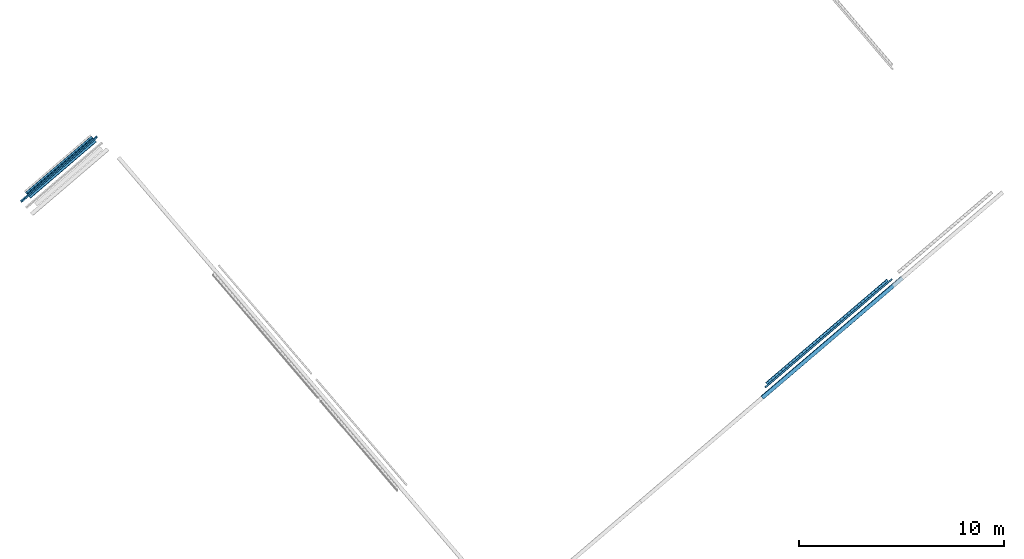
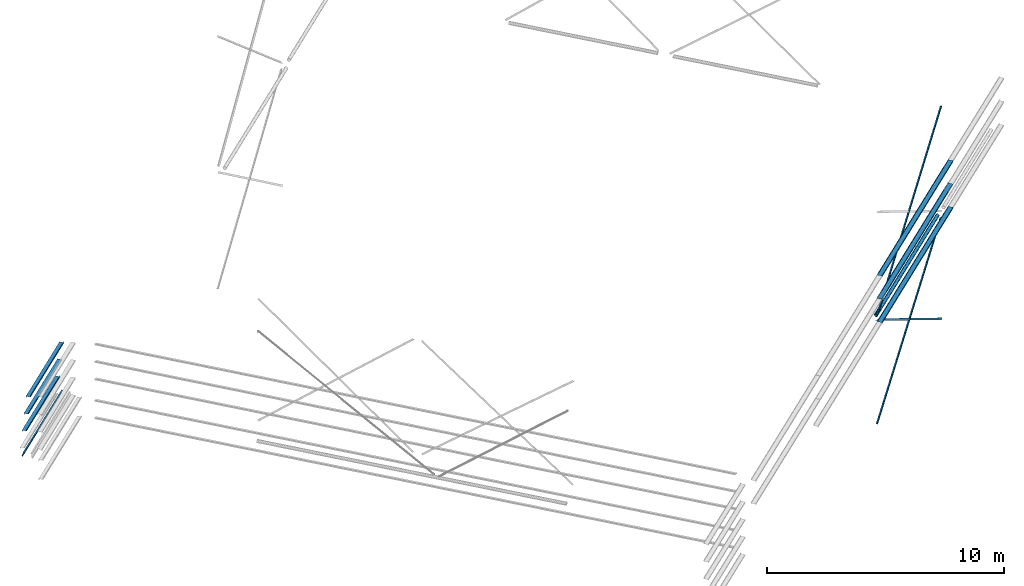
# One storey, part 4 of 6: 8 beams, 3 members.
"""IFC2X3 building model written with IfcOpenShell, lengths in millimetres."""

import ifcopenshell
import ifcopenshell.guid

model = None  # the IFC model being written
_history = None  # IfcOwnerHistory: only IFC2X3 demands one
_inside = {}  # id of a spatial element -> (the spatial element, [elements in it])
_under = {}  # id of a project, library or spatial element -> (it, [spatial elements below it])
_declared = {}  # id of a project -> (the project, [libraries it declares])
_typed = {}  # id of a type object -> (the type object, [elements of that type])
_made_of = {}  # id of a material, layer set ... -> (it, [elements and type objects made of it])


def new_model(schema):
    """Start an empty IFC model of exactly this schema.

    Asked for "IFC4X3", IfcOpenShell would pick the latest addendum, in which some entities
    have other attributes; the version numbers below select the first issue.
    IFC2X3 requires an IfcOwnerHistory on every rooted entity: one is made here for all.
    """
    global model, _history
    if schema == "IFC4X3":
        model = ifcopenshell.file(schema_version=(4, 3, 0, 0))
    else:
        model = ifcopenshell.file(schema=schema)
    _inside.clear()
    _under.clear()
    _declared.clear()
    _typed.clear()
    _made_of.clear()
    _history = None
    if model.schema == "IFC2X3":
        org = make("IfcOrganization", Name="unknown")
        user = make(
            "IfcPersonAndOrganization",
            ThePerson=make("IfcPerson", FamilyName="unknown"),
            TheOrganization=org,
        )
        app = make(
            "IfcApplication",
            ApplicationDeveloper=org,
            Version="unknown",
            ApplicationFullName="unknown",
            ApplicationIdentifier="unknown",
        )
        _history = make(
            "IfcOwnerHistory",
            OwningUser=user,
            OwningApplication=app,
            ChangeAction="ADDED",
            CreationDate=0,
        )
    return model


def make(cls, **values):
    """One entity of the class cls with the attributes given. An attribute that is None is left unset."""
    return model.create_entity(
        cls, **{name: value for name, value in values.items() if value is not None}
    )


def entity(cls, *values):
    """Any entity or typed value of the class cls, its attributes in the order of the schema. None: left unset."""
    e = model.create_entity(cls)
    for i, value in enumerate(values):
        if value is not None:
            e[i] = value
    return e


def rooted(cls, **values):
    """An entity with a GlobalId (a new one), such as an element, a storey or a relation."""
    return make(cls, GlobalId=ifcopenshell.guid.new(), OwnerHistory=_history, **values)


def si_unit(unit_type, name, prefix=None):
    """IfcSIUnit, for example si_unit("LENGTHUNIT", "METRE", prefix="MILLI")."""
    return make("IfcSIUnit", UnitType=unit_type, Prefix=prefix, Name=name)


def converted_unit(unit_type, name, factor, base, dimensions=None, offset=None):
    """IfcConversionBasedUnit, such as the inch: factor (a typed value) times the base unit."""
    return make(
        "IfcConversionBasedUnit"
        if offset is None
        else "IfcConversionBasedUnitWithOffset",
        ConversionOffset=offset,
        Dimensions=None
        if dimensions is None
        else entity("IfcDimensionalExponents", *dimensions),
        UnitType=unit_type,
        Name=name,
        ConversionFactor=make(
            "IfcMeasureWithUnit", ValueComponent=factor, UnitComponent=base
        ),
    )


def derived_unit(unit_type, elements):
    """IfcDerivedUnit: a product of units, each with its exponent."""
    return make(
        "IfcDerivedUnit",
        Elements=[
            make("IfcDerivedUnitElement", Unit=unit, Exponent=power)
            for unit, power in elements
        ],
        UnitType=unit_type,
    )


def assignment(units):
    """IfcUnitAssignment: the units of a project."""
    return None if units is None else make("IfcUnitAssignment", Units=units)


def point(xyz):
    """IfcCartesianPoint."""
    return None if xyz is None else make("IfcCartesianPoint", Coordinates=xyz)


def direction(xyz):
    """IfcDirection."""
    return None if xyz is None else make("IfcDirection", DirectionRatios=xyz)


def frame(location, z_axis=None, x_axis=None):
    """IfcAxis2Placement3D, a coordinate frame: its origin and axes. An axis left out is left unset."""
    return make(
        "IfcAxis2Placement3D",
        Location=point(location),
        Axis=direction(z_axis),
        RefDirection=direction(x_axis),
    )


def frame_2d(location, x_axis=None):
    """IfcAxis2Placement2D, a coordinate frame in the plane: its origin and x axis."""
    return make(
        "IfcAxis2Placement2D", Location=point(location), RefDirection=direction(x_axis)
    )


def origin():
    """The frame at (0, 0, 0) with its axes left unset."""
    return frame((0.0, 0.0, 0.0))


def origin_2d_with_axis():
    """The frame at (0, 0) in the plane with the x axis (1, 0) written out."""
    return frame_2d((0.0, 0.0), x_axis=(1.0, 0.0))


def place(relative_to, where):
    """IfcLocalPlacement: puts the frame where relative to a parent placement (None: the world)."""
    return make(
        "IfcLocalPlacement", PlacementRelTo=relative_to, RelativePlacement=where
    )


def context(
    kind, dimensions, precision=None, world=None, true_north=None, identifier=None
):
    """IfcGeometricRepresentationContext, for example the 3D "Model" context."""
    return make(
        "IfcGeometricRepresentationContext",
        ContextIdentifier=identifier,
        ContextType=kind,
        CoordinateSpaceDimension=dimensions,
        Precision=precision,
        WorldCoordinateSystem=world,
        TrueNorth=true_north,
    )


def subcontext(parent, identifier, kind, view, scale=None):
    """IfcGeometricRepresentationSubContext, for example "Body" below "Model"."""
    return make(
        "IfcGeometricRepresentationSubContext",
        ContextIdentifier=identifier,
        ContextType=kind,
        ParentContext=parent,
        TargetScale=scale,
        TargetView=view,
    )


def project(units=None, contexts=None):
    """IfcProject with its units and contexts."""
    return rooted(
        "IfcProject",
        Name="project",
        RepresentationContexts=contexts,
        UnitsInContext=assignment(units),
    )


def spatial(cls, under=None, at=None, **own):
    """A site, building, storey or space (cls), placed at a placement, below another one or the project."""
    s = rooted(cls, ObjectPlacement=at, **own)
    if under is not None:
        _under.setdefault(under.id(), (under, []))[1].append(s)
    return s


def polyline(points):
    """IfcPolyline through the points."""
    return make("IfcPolyline", Points=[point(p) for p in points])


def circle_curve(where, radius):
    """IfcCircle in the frame where."""
    return make("IfcCircle", Position=where, Radius=radius)


def parameter(value):
    """IfcParameterValue: where a trimmed curve begins or ends, as a parameter of its basis curve."""
    return model.create_entity("IfcParameterValue", value)


def trimmed(basis, trim1, trim2, sense, master):
    """IfcTrimmedCurve: the piece of a basis curve between two trims."""
    return make(
        "IfcTrimmedCurve",
        BasisCurve=basis,
        Trim1=trim1,
        Trim2=trim2,
        SenseAgreement=sense,
        MasterRepresentation=master,
    )


def segment(curve, same_sense, transition):
    """IfcCompositeCurveSegment."""
    return make(
        "IfcCompositeCurveSegment",
        Transition=transition,
        SameSense=same_sense,
        ParentCurve=curve,
    )


def composite_curve(segments, self_intersect=None):
    """IfcCompositeCurve: segments joined end to end."""
    return make("IfcCompositeCurve", Segments=segments, SelfIntersect=self_intersect)


def profile(cls, at=None, kind="AREA", **sizes):
    """A parametric profile (cls). Its sizes go by their IFC names, for example OverallWidth=200.0."""
    return make(cls, ProfileType=kind, Position=at, **sizes)


def hollow_circle(**sizes):
    """IfcCircleHollowProfileDef."""
    return profile("IfcCircleHollowProfileDef", **sizes)


def outline(outer, holes=None, kind="AREA"):
    """IfcArbitraryClosedProfileDef: a profile drawn as a closed curve; with holes, ...WithVoids."""
    if holes is None:
        return make("IfcArbitraryClosedProfileDef", ProfileType=kind, OuterCurve=outer)
    return make(
        "IfcArbitraryProfileDefWithVoids",
        ProfileType=kind,
        OuterCurve=outer,
        InnerCurves=holes,
    )


def extrude(swept, where, along, depth):
    """IfcExtrudedAreaSolid: the profile swept, set in the frame where, extruded along a direction by depth."""
    return make(
        "IfcExtrudedAreaSolid",
        SweptArea=swept,
        Position=where,
        ExtrudedDirection=direction(along),
        Depth=depth,
    )


def shape(context_of_items, identifier, shape_type, items):
    """IfcShapeRepresentation: the items that make up one representation, for example the "Body"."""
    return make(
        "IfcShapeRepresentation",
        ContextOfItems=context_of_items,
        RepresentationIdentifier=identifier,
        RepresentationType=shape_type,
        Items=items,
    )


def source(mapping_origin, context_of_items, identifier, shape_type, items):
    """IfcRepresentationMap: a shape defined once, which mapped items show again and again."""
    return make(
        "IfcRepresentationMap",
        MappingOrigin=mapping_origin,
        MappedRepresentation=shape(context_of_items, identifier, shape_type, items),
    )


def transform(
    local_origin,
    x_axis=None,
    y_axis=None,
    z_axis=None,
    scale=None,
    scale2=None,
    scale3=None,
    uniform=True,
):
    """IfcCartesianTransformationOperator3D, or its non-uniform kind. x_axis, y_axis, z_axis: its Axis1, 2, 3."""
    if uniform:
        return make(
            "IfcCartesianTransformationOperator3D",
            Axis1=direction(x_axis),
            Axis2=direction(y_axis),
            LocalOrigin=point(local_origin),
            Scale=scale,
            Axis3=direction(z_axis),
        )
    return make(
        "IfcCartesianTransformationOperator3DnonUniform",
        Axis1=direction(x_axis),
        Axis2=direction(y_axis),
        LocalOrigin=point(local_origin),
        Scale=scale,
        Axis3=direction(z_axis),
        Scale2=scale2,
        Scale3=scale3,
    )


def mapped(mapping_source, mapping_target):
    """IfcMappedItem: shows the shape of a source again, moved by a transform."""
    return make(
        "IfcMappedItem", MappingSource=mapping_source, MappingTarget=mapping_target
    )


def material(Name=None, Category=None):
    """IfcMaterial."""
    return make("IfcMaterial", Name=Name, Category=Category)


def made_of(thing, what):
    """Note that an element or type object is made of a material, layer set ...; save() writes the relation."""
    if what is not None:
        _made_of.setdefault(what.id(), (what, []))[1].append(thing)
    return thing


def type_object(cls, material=None, **own):
    """A type object (cls), such as IfcWallType, which elements share."""
    return made_of(rooted(cls, **own), material)


def type_shapes(of_type, sources):
    """Give a type object the sources (RepresentationMaps) that its elements show as mapped items."""
    of_type.RepresentationMaps = sources


def element(
    cls,
    number,
    at=None,
    inside=None,
    cuts=None,
    type_object=None,
    material=None,
    context=None,
    identifier="Body",
    shape_type=None,
    held_by="IfcProductDefinitionShape",
    body=None,
    shapes=None,
    **own,
):
    """One element of the class cls, such as IfcWall. Its Tag is "e" and its number.

    at: its placement. inside: the storey or other place that contains it. cuts: it is an
    opening in that element (IfcRelVoidsElement). A single representation is given by context,
    identifier, shape_type and body (its items); several are given by shapes. held_by: the class
    of the entity that holds the representations. save() writes the other relations.
    """
    e = rooted(cls, Tag="e%d" % number, ObjectPlacement=at, **own)
    if body is not None:
        shapes = [shape(context, identifier, shape_type, body)]
    if shapes is not None:
        e.Representation = make(held_by, Representations=shapes)
    if inside is not None:
        _inside.setdefault(inside.id(), (inside, []))[1].append(e)
    if cuts is not None:
        rooted(
            "IfcRelVoidsElement", RelatingBuildingElement=cuts, RelatedOpeningElement=e
        )
    if type_object is not None:
        _typed.setdefault(type_object.id(), (type_object, []))[1].append(e)
    return made_of(e, material)


def aggregate(whole, parts):
    """IfcRelAggregates: a whole, such as a stair, and the parts it consists of."""
    return rooted("IfcRelAggregates", RelatingObject=whole, RelatedObjects=parts)


def save(model, path):
    """Write the relations noted so far, then the file.

    IfcRelAggregates (storeys below a building ...), IfcRelContainedInSpatialStructure (elements
    in a storey), IfcRelDefinesByType, IfcRelAssociatesMaterial and IfcRelDeclares: one each for
    every whole, place, type object, material and project.
    """
    for whole, parts in _under.values():
        aggregate(whole, parts)
    for where, things in _inside.values():
        rooted(
            "IfcRelContainedInSpatialStructure",
            RelatedElements=things,
            RelatingStructure=where,
        )
    for kind, things in _typed.values():
        rooted("IfcRelDefinesByType", RelatedObjects=things, RelatingType=kind)
    for what, things in _made_of.values():
        rooted("IfcRelAssociatesMaterial", RelatedObjects=things, RelatingMaterial=what)
    for by, libraries in _declared.values():
        rooted("IfcRelDeclares", RelatingContext=by, RelatedDefinitions=libraries)
    model.write(path)


model = new_model("IFC2X3")

# Units and contexts
model_context = context("Model", 3, precision=0.01, world=origin(), true_north=direction((6.123031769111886e-17, 1.0)))
body_context = subcontext(model_context, "Body", "Model", "MODEL_VIEW")
ifc_project = project(units=[si_unit("LENGTHUNIT", "METRE", prefix="MILLI"), si_unit("AREAUNIT", "SQUARE_METRE"), si_unit("VOLUMEUNIT", "CUBIC_METRE"), converted_unit("PLANEANGLEUNIT", "DEGREE", entity("IfcRatioMeasure", 0.017453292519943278), si_unit("PLANEANGLEUNIT", "RADIAN"), dimensions=[0, 0, 0, 0, 0, 0, 0]), si_unit("MASSUNIT", "GRAM", prefix="KILO"), derived_unit("MASSDENSITYUNIT", [(si_unit("MASSUNIT", "GRAM", prefix="KILO"), 1), (si_unit("LENGTHUNIT", "METRE"), -3)]), derived_unit("MOMENTOFINERTIAUNIT", [(si_unit("LENGTHUNIT", "METRE"), 4)]), si_unit("TIMEUNIT", "SECOND"), si_unit("FREQUENCYUNIT", "HERTZ"), si_unit("THERMODYNAMICTEMPERATUREUNIT", "DEGREE_CELSIUS"), derived_unit("THERMALTRANSMITTANCEUNIT", [(si_unit("MASSUNIT", "GRAM", prefix="KILO"), 1), (si_unit("THERMODYNAMICTEMPERATUREUNIT", "KELVIN"), -1), (si_unit("TIMEUNIT", "SECOND"), -3)]), derived_unit("VOLUMETRICFLOWRATEUNIT", [(si_unit("LENGTHUNIT", "METRE"), 3), (si_unit("TIMEUNIT", "SECOND"), -1)]), derived_unit("MASSFLOWRATEUNIT", [(si_unit("MASSUNIT", "GRAM", prefix="KILO"), 1), (si_unit("TIMEUNIT", "SECOND"), -1)]), derived_unit("ROTATIONALFREQUENCYUNIT", [(si_unit("TIMEUNIT", "SECOND"), -1)]), si_unit("ELECTRICCURRENTUNIT", "AMPERE"), si_unit("ELECTRICVOLTAGEUNIT", "VOLT"), si_unit("POWERUNIT", "WATT"), si_unit("FORCEUNIT", "NEWTON", prefix="KILO"), si_unit("ILLUMINANCEUNIT", "LUX"), si_unit("LUMINOUSFLUXUNIT", "LUMEN"), si_unit("LUMINOUSINTENSITYUNIT", "CANDELA"), derived_unit("USERDEFINED", [(si_unit("MASSUNIT", "GRAM", prefix="KILO"), -1), (si_unit("LENGTHUNIT", "METRE"), -2), (si_unit("TIMEUNIT", "SECOND"), 3), (si_unit("LUMINOUSFLUXUNIT", "LUMEN"), 1)]), derived_unit("SOUNDPOWERUNIT", [(si_unit("MASSUNIT", "GRAM", prefix="KILO"), 1), (si_unit("LENGTHUNIT", "METRE"), 2), (si_unit("TIMEUNIT", "SECOND"), -3)]), derived_unit("LINEARVELOCITYUNIT", [(si_unit("LENGTHUNIT", "METRE"), 1), (si_unit("TIMEUNIT", "SECOND"), -1)]), si_unit("PRESSUREUNIT", "PASCAL"), derived_unit("USERDEFINED", [(si_unit("LENGTHUNIT", "METRE"), -2), (si_unit("MASSUNIT", "GRAM", prefix="KILO"), 1), (si_unit("TIMEUNIT", "SECOND"), -2)]), derived_unit("LINEARFORCEUNIT", [(si_unit("MASSUNIT", "GRAM", prefix="KILO"), 1), (si_unit("LENGTHUNIT", "METRE"), 1), (si_unit("TIMEUNIT", "SECOND"), -2), (si_unit("LENGTHUNIT", "METRE"), -1)]), derived_unit("PLANARFORCEUNIT", [(si_unit("MASSUNIT", "GRAM", prefix="KILO"), 1), (si_unit("LENGTHUNIT", "METRE"), 1), (si_unit("TIMEUNIT", "SECOND"), -2), (si_unit("LENGTHUNIT", "METRE"), -2)])], contexts=[model_context])

# Site, building, storey
site_placement = place(None, frame((962.4174930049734, -6014.433753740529, 0.0), z_axis=(0.0, 0.0, 1.0), x_axis=(0.7601792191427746, 0.649713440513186, 0.0)))
site = spatial("IfcSite", under=ifc_project, at=site_placement, Name="Default", CompositionType="ELEMENT")
building_placement = place(site_placement, origin())
building = spatial("IfcBuilding", under=site, at=building_placement, CompositionType="ELEMENT")
storey_placement = place(building_placement, frame((0.0, 0.0, 8925.0)))
storey = spatial("IfcBuildingStorey", under=building, at=storey_placement, Name="TOP OF PLANT ROOM", CompositionType="ELEMENT", Elevation=8925.000000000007)

# Beams
ifc_material_1 = material(Name="Metal - Steel - 300 MPa")
beam_type_1 = type_object("IfcBeamType", Name="ADSK_AU_CHS-Circular Hollow Sections (AS 1163_C350):168.3x6.4CHS", PredefinedType="NOTDEFINED")
beam_1_placement = place(storey_placement, frame((170738.96020470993, -25846.928082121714, -3340.850000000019)))
element("IfcBeam", 1, at=beam_1_placement, inside=storey, type_object=beam_type_1, material=ifc_material_1, Name="ADSK_AU_CHS-Circular Hollow Sections (AS 1163_C350):168.3x6.4CHS", ObjectType="ADSK_AU_CHS-Circular Hollow Sections (AS 1163_C350):168.3x6.4CHS", context=body_context, shape_type="SweptSolid", body=[
    extrude(hollow_circle(Radius=84.15000000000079, WallThickness=6.4000000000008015, at=origin_2d_with_axis()), frame((299.49999999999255, 0.0, -84.15000000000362), z_axis=(1.0, 0.0, 0.0), x_axis=(0.0, 1.0, 0.0)), (0.0, 0.0, 1.0), 7786.299999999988),
])
beam_type_2 = type_object("IfcBeamType", Name="ADSK_AU_EA-Equal Angles (AS 3679_1):90x90x10EA", PredefinedType="NOTDEFINED")
beam_2_placement = place(storey_placement, frame((179138.96020470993, -25957.928082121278, -3425.0), z_axis=(-0.5477859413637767, 0.0, 0.8366185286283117), x_axis=(-0.8366185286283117, 0.0, -0.5477859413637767)))
element("IfcBeam", 2, at=beam_2_placement, inside=storey, type_object=beam_type_2, material=ifc_material_1, Name="ADSK_AU_EA-Equal Angles (AS 3679_1):90x90x10EA", ObjectType="ADSK_AU_EA-Equal Angles (AS 3679_1):90x90x10EA", context=body_context, shape_type="SweptSolid", body=[
    extrude(outline(composite_curve([segment(polyline([(29.22222222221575, -55.777777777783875), (34.222222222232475, -55.777777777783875)]), True, "CONTINUOUS"), segment(polyline([(34.222222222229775, -55.77777777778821), (34.222222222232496, 34.222222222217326)]), True, "CONTINUOUS"), segment(polyline([(34.22222222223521, 34.222222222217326), (-55.77777777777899, 34.22222222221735)]), True, "CONTINUOUS"), segment(polyline([(-55.777777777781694, 34.22222222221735), (-55.77777777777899, 29.222222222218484)]), True, "CONTINUOUS"), segment(trimmed(circle_curve(frame_2d((-50.77777777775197, 29.22222222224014), x_axis=(-1.0, 0.0)), 5.000000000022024), [parameter(0.0)], [parameter(89.99999999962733)], True, "PARAMETER"), True, "CONTINUOUS"), segment(polyline([(-50.77777777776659, 24.22222222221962), (16.22222222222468, 24.222222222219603)]), True, "CONTINUOUS"), segment(trimmed(circle_curve(frame_2d((16.22222222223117, 16.222222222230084), x_axis=(0.0, 1.0)), 7.99999999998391), [parameter(269.9999999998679)], [parameter(0.0)], True, "PARAMETER"), False, "CONTINUOUS"), segment(polyline([(24.22222222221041, 16.222222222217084), (24.22222222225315, -50.77777777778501)]), True, "CONTINUOUS"), segment(trimmed(circle_curve(frame_2d((29.222222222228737, -50.777777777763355), x_axis=(-1.0, 0.0)), 5.000000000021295), [parameter(0.0)], [parameter(89.99999999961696)], True, "PARAMETER"), True, "CONTINUOUS")], self_intersect=False)), frame((229.30915898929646, -8.522222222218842, -55.77777777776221), z_axis=(1.0, 0.0, 0.0), x_axis=(0.0, 0.0, -1.0)), (0.0, 0.0, 1.0), 9673.50000000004),
])
beam_3_placement = place(storey_placement, frame((170763.61057207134, -25957.928082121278, -3387.352166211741), z_axis=(0.547785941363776, 0.0, 0.8366185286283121), x_axis=(0.8366185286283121, 0.0, -0.547785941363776)))
element("IfcBeam", 3, at=beam_3_placement, inside=storey, type_object=beam_type_2, material=ifc_material_1, Name="ADSK_AU_EA-Equal Angles (AS 3679_1):90x90x10EA", ObjectType="ADSK_AU_EA-Equal Angles (AS 3679_1):90x90x10EA", context=body_context, shape_type="SweptSolid", body=[
    extrude(outline(composite_curve([segment(polyline([(-55.77777777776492, -34.222222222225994), (34.2222222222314, -34.222222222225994)]), True, "CONTINUOUS"), segment(polyline([(34.22222222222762, -34.222222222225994), (34.22222222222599, 55.77777777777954)]), True, "CONTINUOUS"), segment(polyline([(34.22222222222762, 55.777777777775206), (29.222222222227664, 55.777777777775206)]), True, "CONTINUOUS"), segment(trimmed(circle_curve(frame_2d((29.222222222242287, 50.777777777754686), x_axis=(0.0, 1.0)), 5.000000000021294), [parameter(0.0)], [parameter(89.99999999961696)], True, "PARAMETER"), True, "CONTINUOUS"), segment(polyline([(24.22222222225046, 50.77777777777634), (24.222222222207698, -16.222222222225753)]), True, "CONTINUOUS"), segment(trimmed(circle_curve(frame_2d((16.2222222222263, -16.22222222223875), x_axis=(1.0, 0.0)), 7.999999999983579), [parameter(269.9999999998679)], [parameter(0.0)], True, "PARAMETER"), False, "CONTINUOUS"), segment(polyline([(16.222222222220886, -24.222222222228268), (-50.77777777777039, -24.222222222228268)]), True, "CONTINUOUS"), segment(trimmed(circle_curve(frame_2d((-50.77777777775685, -29.22222222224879), x_axis=(0.0, 1.0)), 5.000000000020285), [parameter(0.0)], [parameter(89.99999999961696)], True, "PARAMETER"), True, "CONTINUOUS"), segment(polyline([(-55.77777777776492, -29.22222222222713), (-55.777777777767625, -34.222222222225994)]), True, "CONTINUOUS")], self_intersect=False)), frame((198.70915898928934, 8.522222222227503, -55.777777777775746), z_axis=(1.0, 0.0, 0.0), x_axis=(0.0, 0.0, -1.0)), (0.0, 0.0, 1.0), 9676.100000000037),
])
beam_4_placement = place(storey_placement, frame((179089.73643714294, -25957.928082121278, 2247.919352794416), z_axis=(-0.5582373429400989, 0.0, 0.8296813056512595), x_axis=(-0.8296813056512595, 0.0, -0.5582373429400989)))
element("IfcBeam", 4, at=beam_4_placement, inside=storey, type_object=beam_type_2, material=ifc_material_1, Name="ADSK_AU_EA-Equal Angles (AS 3679_1):90x90x10EA", ObjectType="ADSK_AU_EA-Equal Angles (AS 3679_1):90x90x10EA", context=body_context, shape_type="SweptSolid", body=[
    extrude(outline(composite_curve([segment(polyline([(29.22222222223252, -55.77777777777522), (34.222222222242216, -55.77777777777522)]), True, "CONTINUOUS"), segment(polyline([(34.222222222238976, -55.77777777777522), (34.22222222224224, 34.22222222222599)]), True, "CONTINUOUS"), segment(polyline([(34.222222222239, 34.22222222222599), (-55.777777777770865, 34.22222222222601)]), True, "CONTINUOUS"), segment(polyline([(-55.7777777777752, 34.22222222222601), (-55.777777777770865, 29.22222222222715)]), True, "CONTINUOUS"), segment(trimmed(circle_curve(frame_2d((-50.77777777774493, 29.222222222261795), x_axis=(-1.0, 0.0)), 5.000000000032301), [parameter(0.0)], [parameter(89.99999999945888)], True, "PARAMETER"), True, "CONTINUOUS"), segment(polyline([(-50.77777777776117, 24.222222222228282), (16.222222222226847, 24.222222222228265)]), True, "CONTINUOUS"), segment(trimmed(circle_curve(frame_2d((16.222222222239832, 16.22222222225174), x_axis=(0.0, 1.0)), 7.999999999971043), [parameter(269.9999999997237)], [parameter(0.0)], True, "PARAMETER"), False, "CONTINUOUS"), segment(polyline([(24.222222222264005, 16.222222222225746), (24.222222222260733, -50.77777777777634)]), True, "CONTINUOUS"), segment(trimmed(circle_curve(frame_2d((29.222222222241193, -50.7777777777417), x_axis=(-1.0, 0.0)), 5.000000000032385), [parameter(0.0)], [parameter(89.99999999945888)], True, "PARAMETER"), True, "CONTINUOUS")], self_intersect=False)), frame((139.90915898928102, -8.522222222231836, -55.777777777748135), z_axis=(1.0, 0.0, 0.0), x_axis=(0.0, 0.0, -1.0)), (0.0, 0.0, 1.0), 9786.400000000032),
])
beam_type_3 = type_object("IfcBeamType", Name="ADSK_UK_Light Gauge-Zeds-Purlin:Metsec-202Z14", PredefinedType="NOTDEFINED")
beam_5_placement = place(storey_placement, frame((153845.96020471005, 4757.234486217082, -2333.308750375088), z_axis=(0.0, 0.0, 1.0), x_axis=(-1.0, 0.0, 0.0)))
element("IfcBeam", 5, at=beam_5_placement, inside=storey, type_object=beam_type_3, material=ifc_material_1, Name="ADSK_UK_Light Gauge-Zeds-Purlin:Metsec-202Z14", ObjectType="ADSK_UK_Light Gauge-Zeds-Purlin:Metsec-202Z14", context=body_context, shape_type="SweptSolid", body=[
    extrude(outline(composite_curve([segment(trimmed(circle_curve(frame_2d((98.400000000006, 58.0), x_axis=(1.0, 0.0)), 2.7999999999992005), [parameter(0.0)], [parameter(90.00000000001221)], True, "PARAMETER"), True, "CONTINUOUS"), segment(polyline([(98.39999999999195, 60.80000000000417), (80.20000000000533, 60.80000000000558)]), True, "CONTINUOUS"), segment(polyline([(80.19999999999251, 60.80000000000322), (80.20000000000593, 59.40000000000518)]), True, "CONTINUOUS"), segment(polyline([(80.19999999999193, 59.4000000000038), (98.40000000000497, 59.40000000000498)]), True, "CONTINUOUS"), segment(trimmed(circle_curve(frame_2d((98.40000000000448, 58.0), x_axis=(0.0, 1.0)), 1.4000000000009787), [parameter(270.000000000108)], [parameter(0.0)], True, "PARAMETER"), False, "CONTINUOUS"), segment(polyline([(99.79999999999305, 58.0), (99.80000000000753, 3.6000000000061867)]), True, "CONTINUOUS"), segment(trimmed(circle_curve(frame_2d((98.40000000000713, 3.6000000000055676), x_axis=(1.0, 0.0)), 1.4000000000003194), [parameter(269.9999999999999)], [parameter(0.0)], True, "PARAMETER"), False, "CONTINUOUS"), segment(polyline([(98.39999999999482, 2.2000000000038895), (-98.0, 2.199999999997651)]), True, "CONTINUOUS"), segment(trimmed(circle_curve(frame_2d((-98.0, -0.6000000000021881), x_axis=(0.0, 1.0)), 2.7999999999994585), [parameter(0.0)], [parameter(90.00000000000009)], True, "PARAMETER"), True, "CONTINUOUS"), segment(polyline([(-100.80000000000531, -0.6000000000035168), (-100.7999999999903, -60.0)]), True, "CONTINUOUS"), segment(trimmed(circle_curve(frame_2d((-98.0, -60.0), x_axis=(-1.0, 0.0)), 2.7999999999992), [parameter(0.0)], [parameter(90.00000000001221)], True, "PARAMETER"), True, "CONTINUOUS"), segment(polyline([(-98.0, -62.80000000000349), (-81.79999999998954, -62.80000000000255)]), True, "CONTINUOUS"), segment(polyline([(-81.80000000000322, -62.80000000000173), (-81.79999999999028, -61.40000000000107)]), True, "CONTINUOUS"), segment(polyline([(-81.80000000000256, -61.40000000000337), (-98.0, -61.40000000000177)]), True, "CONTINUOUS"), segment(trimmed(circle_curve(frame_2d((-98.0, -60.0), x_axis=(0.0, -1.0)), 1.4000000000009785), [parameter(270.000000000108)], [parameter(0.0)], True, "PARAMETER"), False, "CONTINUOUS"), segment(polyline([(-99.40000000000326, -60.0), (-99.39999999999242, -0.600000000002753)]), True, "CONTINUOUS"), segment(trimmed(circle_curve(frame_2d((-98.0, -0.6000000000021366), x_axis=(-1.0, 0.0)), 1.4000000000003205), [parameter(269.9999999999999)], [parameter(0.0)], True, "PARAMETER"), False, "CONTINUOUS"), segment(polyline([(-98.0, 0.7999999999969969), (98.40000000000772, 0.8000000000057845)]), True, "CONTINUOUS"), segment(trimmed(circle_curve(frame_2d((98.40000000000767, 3.600000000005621), x_axis=(0.0, -1.0)), 2.799999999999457), [parameter(0.0)], [parameter(90.00000000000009)], True, "PARAMETER"), True, "CONTINUOUS"), segment(polyline([(101.19999999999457, 3.6000000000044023), (101.20000000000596, 58.0)]), True, "CONTINUOUS")], self_intersect=False)), frame((0.0, 100.24508507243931, -10.585505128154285), z_axis=(1.0, 0.0, 0.0), x_axis=(0.0, 0.9951761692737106, -0.09810398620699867)), (0.0, 0.0, 1.0), 4240.000000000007),
])
beam_6_placement = place(storey_placement, frame((153845.96020471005, 4668.981135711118, -1437.646232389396), z_axis=(0.0, 0.0, 1.0), x_axis=(-1.0, 0.0, 0.0)))
element("IfcBeam", 6, at=beam_6_placement, inside=storey, type_object=beam_type_3, material=ifc_material_1, Name="ADSK_UK_Light Gauge-Zeds-Purlin:Metsec-202Z14", ObjectType="ADSK_UK_Light Gauge-Zeds-Purlin:Metsec-202Z14", context=body_context, shape_type="SweptSolid", body=[
    extrude(outline(composite_curve([segment(trimmed(circle_curve(frame_2d((98.40000000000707, 58.0), x_axis=(1.0, 0.0)), 2.7999999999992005), [parameter(0.0)], [parameter(90.00000000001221)], True, "PARAMETER"), True, "CONTINUOUS"), segment(polyline([(98.39999999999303, 60.800000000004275), (80.20000000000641, 60.80000000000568)]), True, "CONTINUOUS"), segment(polyline([(80.19999999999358, 60.80000000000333), (80.20000000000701, 59.400000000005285)]), True, "CONTINUOUS"), segment(polyline([(80.19999999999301, 59.40000000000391), (98.40000000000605, 59.400000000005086)]), True, "CONTINUOUS"), segment(trimmed(circle_curve(frame_2d((98.40000000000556, 58.0), x_axis=(0.0, 1.0)), 1.4000000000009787), [parameter(270.000000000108)], [parameter(0.0)], True, "PARAMETER"), False, "CONTINUOUS"), segment(polyline([(99.79999999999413, 58.0), (99.8000000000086, 3.6000000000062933)]), True, "CONTINUOUS"), segment(trimmed(circle_curve(frame_2d((98.4000000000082, 3.6000000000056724), x_axis=(1.0, 0.0)), 1.4000000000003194), [parameter(269.9999999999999)], [parameter(0.0)], True, "PARAMETER"), False, "CONTINUOUS"), segment(polyline([(98.3999999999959, 2.2000000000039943), (-98.0, 2.1999999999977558)]), True, "CONTINUOUS"), segment(trimmed(circle_curve(frame_2d((-98.0, -0.6000000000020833), x_axis=(0.0, 1.0)), 2.7999999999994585), [parameter(0.0)], [parameter(90.00000000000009)], True, "PARAMETER"), True, "CONTINUOUS"), segment(polyline([(-100.80000000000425, -0.600000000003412), (-100.79999999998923, -60.0)]), True, "CONTINUOUS"), segment(trimmed(circle_curve(frame_2d((-98.0, -60.0), x_axis=(-1.0, 0.0)), 2.7999999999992), [parameter(0.0)], [parameter(90.00000000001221)], True, "PARAMETER"), True, "CONTINUOUS"), segment(polyline([(-98.0, -62.800000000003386), (-81.79999999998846, -62.80000000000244)]), True, "CONTINUOUS"), segment(polyline([(-81.80000000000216, -62.800000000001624), (-81.7999999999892, -61.400000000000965)]), True, "CONTINUOUS"), segment(polyline([(-81.80000000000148, -61.40000000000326), (-98.0, -61.40000000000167)]), True, "CONTINUOUS"), segment(trimmed(circle_curve(frame_2d((-98.0, -60.0), x_axis=(0.0, -1.0)), 1.4000000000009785), [parameter(270.000000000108)], [parameter(0.0)], True, "PARAMETER"), False, "CONTINUOUS"), segment(polyline([(-99.4000000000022, -60.0), (-99.39999999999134, -0.6000000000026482)]), True, "CONTINUOUS"), segment(trimmed(circle_curve(frame_2d((-98.0, -0.60000000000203), x_axis=(-1.0, 0.0)), 1.4000000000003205), [parameter(269.9999999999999)], [parameter(0.0)], True, "PARAMETER"), False, "CONTINUOUS"), segment(polyline([(-98.0, 0.7999999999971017), (98.4000000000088, 0.8000000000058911)]), True, "CONTINUOUS"), segment(trimmed(circle_curve(frame_2d((98.40000000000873, 3.6000000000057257), x_axis=(0.0, -1.0)), 2.799999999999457), [parameter(0.0)], [parameter(90.00000000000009)], True, "PARAMETER"), True, "CONTINUOUS"), segment(polyline([(101.19999999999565, 3.600000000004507), (101.20000000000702, 58.0)]), True, "CONTINUOUS")], self_intersect=False)), frame((0.0, 100.24508507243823, -10.585505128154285), z_axis=(1.0, 0.0, 0.0), x_axis=(0.0, 0.9951761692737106, -0.09810398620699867)), (0.0, 0.0, 1.0), 4240.000000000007),
])
beam_7_placement = place(storey_placement, frame((153845.96020471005, 4580.727785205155, -541.9837144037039), z_axis=(0.0, 0.0, 1.0), x_axis=(-1.0, 0.0, 0.0)))
element("IfcBeam", 7, at=beam_7_placement, inside=storey, type_object=beam_type_3, material=ifc_material_1, Name="ADSK_UK_Light Gauge-Zeds-Purlin:Metsec-202Z14", ObjectType="ADSK_UK_Light Gauge-Zeds-Purlin:Metsec-202Z14", context=body_context, shape_type="SweptSolid", body=[
    extrude(outline(composite_curve([segment(trimmed(circle_curve(frame_2d((98.40000000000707, 58.0), x_axis=(1.0, 0.0)), 2.7999999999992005), [parameter(0.0)], [parameter(90.00000000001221)], True, "PARAMETER"), True, "CONTINUOUS"), segment(polyline([(98.39999999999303, 60.800000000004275), (80.20000000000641, 60.80000000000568)]), True, "CONTINUOUS"), segment(polyline([(80.19999999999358, 60.80000000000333), (80.20000000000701, 59.400000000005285)]), True, "CONTINUOUS"), segment(polyline([(80.19999999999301, 59.40000000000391), (98.40000000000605, 59.400000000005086)]), True, "CONTINUOUS"), segment(trimmed(circle_curve(frame_2d((98.40000000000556, 58.0), x_axis=(0.0, 1.0)), 1.4000000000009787), [parameter(270.000000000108)], [parameter(0.0)], True, "PARAMETER"), False, "CONTINUOUS"), segment(polyline([(99.79999999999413, 58.0), (99.8000000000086, 3.6000000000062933)]), True, "CONTINUOUS"), segment(trimmed(circle_curve(frame_2d((98.4000000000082, 3.6000000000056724), x_axis=(1.0, 0.0)), 1.4000000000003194), [parameter(269.9999999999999)], [parameter(0.0)], True, "PARAMETER"), False, "CONTINUOUS"), segment(polyline([(98.3999999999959, 2.2000000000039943), (-98.0, 2.1999999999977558)]), True, "CONTINUOUS"), segment(trimmed(circle_curve(frame_2d((-98.0, -0.6000000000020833), x_axis=(0.0, 1.0)), 2.7999999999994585), [parameter(0.0)], [parameter(90.00000000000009)], True, "PARAMETER"), True, "CONTINUOUS"), segment(polyline([(-100.80000000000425, -0.600000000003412), (-100.79999999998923, -60.0)]), True, "CONTINUOUS"), segment(trimmed(circle_curve(frame_2d((-98.0, -60.0), x_axis=(-1.0, 0.0)), 2.7999999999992), [parameter(0.0)], [parameter(90.00000000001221)], True, "PARAMETER"), True, "CONTINUOUS"), segment(polyline([(-98.0, -62.800000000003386), (-81.79999999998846, -62.80000000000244)]), True, "CONTINUOUS"), segment(polyline([(-81.80000000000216, -62.800000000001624), (-81.7999999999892, -61.400000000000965)]), True, "CONTINUOUS"), segment(polyline([(-81.80000000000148, -61.40000000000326), (-98.0, -61.40000000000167)]), True, "CONTINUOUS"), segment(trimmed(circle_curve(frame_2d((-98.0, -60.0), x_axis=(0.0, -1.0)), 1.4000000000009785), [parameter(270.000000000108)], [parameter(0.0)], True, "PARAMETER"), False, "CONTINUOUS"), segment(polyline([(-99.4000000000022, -60.0), (-99.39999999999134, -0.6000000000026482)]), True, "CONTINUOUS"), segment(trimmed(circle_curve(frame_2d((-98.0, -0.60000000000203), x_axis=(-1.0, 0.0)), 1.4000000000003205), [parameter(269.9999999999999)], [parameter(0.0)], True, "PARAMETER"), False, "CONTINUOUS"), segment(polyline([(-98.0, 0.7999999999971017), (98.4000000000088, 0.8000000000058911)]), True, "CONTINUOUS"), segment(trimmed(circle_curve(frame_2d((98.40000000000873, 3.6000000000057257), x_axis=(0.0, -1.0)), 2.799999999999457), [parameter(0.0)], [parameter(90.00000000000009)], True, "PARAMETER"), True, "CONTINUOUS"), segment(polyline([(101.19999999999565, 3.600000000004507), (101.20000000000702, 58.0)]), True, "CONTINUOUS")], self_intersect=False)), frame((0.0, 100.24508507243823, -10.585505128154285), z_axis=(1.0, 0.0, 0.0), x_axis=(0.0, 0.9951761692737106, -0.09810398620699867)), (0.0, 0.0, 1.0), 4240.000000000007),
])
beam_8_placement = place(storey_placement, frame((154043.43877903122, 4560.521917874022, -3139.0), z_axis=(0.0, 0.0, 1.0), x_axis=(-1.0, 0.0, 0.0)))
element("IfcBeam", 8, at=beam_8_placement, inside=storey, type_object=beam_type_3, material=ifc_material_1, Name="ADSK_UK_Light Gauge-Zeds-Purlin:Metsec-202Z14", ObjectType="ADSK_UK_Light Gauge-Zeds-Purlin:Metsec-202Z14", context=body_context, shape_type="SweptSolid", body=[
    extrude(outline(composite_curve([segment(polyline([(80.2000000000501, -60.799999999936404), (98.4000000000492, -60.799999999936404)]), True, "CONTINUOUS"), segment(trimmed(circle_curve(frame_2d((98.40000000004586, -58.0), x_axis=(0.0, -1.0)), 2.8000000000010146), [parameter(0.0)], [parameter(89.99999999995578)], True, "PARAMETER"), True, "CONTINUOUS"), segment(polyline([(101.20000000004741, -58.0), (101.20000000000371, -3.5999999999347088)]), True, "CONTINUOUS"), segment(trimmed(circle_curve(frame_2d((98.40000000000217, -3.59999999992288), x_axis=(1.0, 0.0)), 2.8000000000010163), [parameter(0.0)], [parameter(89.99999999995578)], True, "PARAMETER"), True, "CONTINUOUS"), segment(polyline([(98.400000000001, -0.7999999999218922), (-98.0, -0.8000000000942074)]), True, "CONTINUOUS"), segment(trimmed(circle_curve(frame_2d((-98.0, 0.5999999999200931), x_axis=(0.0, -1.0)), 1.4000000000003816), [parameter(270.0000000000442)], [parameter(0.0)], True, "PARAMETER"), False, "CONTINUOUS"), segment(polyline([(-99.39999999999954, 0.599999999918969), (-99.40000000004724, 60.0)]), True, "CONTINUOUS"), segment(trimmed(circle_curve(frame_2d((-98.0, 60.0), x_axis=(-1.0, 0.0)), 1.4000000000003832), [parameter(270.0000000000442)], [parameter(0.0)], True, "PARAMETER"), False, "CONTINUOUS"), segment(polyline([(-98.0, 61.39999999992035), (-81.80000000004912, 61.399999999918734)]), True, "CONTINUOUS"), segment(polyline([(-81.80000000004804, 61.39999999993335), (-81.80000000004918, 62.79999999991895)]), True, "CONTINUOUS"), segment(polyline([(-81.80000000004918, 62.799999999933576), (-98.0, 62.79999999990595)]), True, "CONTINUOUS"), segment(trimmed(circle_curve(frame_2d((-98.0, 60.0), x_axis=(0.0, 1.0)), 2.8000000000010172), [parameter(0.0)], [parameter(89.99999999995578)], True, "PARAMETER"), True, "CONTINUOUS"), segment(polyline([(-100.80000000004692, 60.0), (-100.79999999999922, 0.5999999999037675)]), True, "CONTINUOUS"), segment(trimmed(circle_curve(frame_2d((-98.0, 0.5999999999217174), x_axis=(-1.0, 0.0)), 2.800000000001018), [parameter(0.0)], [parameter(89.99999999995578)], True, "PARAMETER"), True, "CONTINUOUS"), segment(polyline([(-98.0, -2.200000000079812), (98.40000000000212, -2.199999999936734)]), True, "CONTINUOUS"), segment(trimmed(circle_curve(frame_2d((98.40000000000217, -3.5999999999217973), x_axis=(0.0, 1.0)), 1.400000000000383), [parameter(270.0000000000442)], [parameter(0.0)], True, "PARAMETER"), False, "CONTINUOUS"), segment(polyline([(99.80000000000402, -3.5999999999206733), (99.80000000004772, -58.0)]), True, "CONTINUOUS"), segment(trimmed(circle_curve(frame_2d((98.40000000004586, -58.0), x_axis=(1.0, 0.0)), 1.4000000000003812), [parameter(270.0000000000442)], [parameter(0.0)], True, "PARAMETER"), False, "CONTINUOUS"), segment(polyline([(98.40000000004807, -59.39999999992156), (80.20000000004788, -59.3999999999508)]), True, "CONTINUOUS"), segment(polyline([(80.20000000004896, -59.39999999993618), (80.2000000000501, -60.79999999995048)]), True, "CONTINUOUS")], self_intersect=False)), frame((0.0, 0.7000000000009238, -100.80000000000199), z_axis=(1.0, 0.0, 0.0), x_axis=(0.0, 0.0, -1.0)), (0.0, 0.0, 1.0), 4899.999999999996),
])

# Members
ifc_material_2 = material(Name="Metal - Steel - 345 MPa")
member_type = type_object("IfcMemberType", Name="ADSK_AU_Light Gauge-Zeds:Z20012", PredefinedType="BRACE", material=ifc_material_2)
shared_shape = source(origin(), body_context, "Body", "SweptSolid", [
    extrude(outline(composite_curve([segment(polyline([(-98.30000000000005, -66.44000000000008), (-82.0, -66.44000000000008)]), True, "CONTINUOUS"), segment(polyline([(-82.0, -66.44000000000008), (-82.0, -65.24000000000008)]), True, "CONTINUOUS"), segment(polyline([(-82.0, -65.24000000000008), (-98.29999999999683, -65.24000000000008)]), True, "CONTINUOUS"), segment(trimmed(circle_curve(frame_2d((-98.30000000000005, -63.24000000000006), x_axis=(0.0, -1.0)), 2.0000000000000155), [parameter(270.00000000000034)], [parameter(0.0)], True, "PARAMETER"), False, "CONTINUOUS"), segment(polyline([(-100.3, -63.24000000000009), (-100.29999999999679, -6.440000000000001)]), True, "CONTINUOUS"), segment(trimmed(circle_curve(frame_2d((-98.29999999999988, -6.439999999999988), x_axis=(-1.0, 0.0)), 1.9999999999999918), [parameter(269.9999999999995)], [parameter(0.0)], True, "PARAMETER"), False, "CONTINUOUS"), segment(polyline([(-98.29999999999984, -4.439999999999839), (98.30000000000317, -4.439999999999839)]), True, "CONTINUOUS"), segment(trimmed(circle_curve(frame_2d((98.29999999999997, -1.239999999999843), x_axis=(0.0, -1.0)), 3.199999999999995), [parameter(0.0)], [parameter(90.00000000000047)], True, "PARAMETER"), True, "CONTINUOUS"), segment(polyline([(101.49999999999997, -1.2399999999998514), (101.50000000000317, 68.3599999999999)]), True, "CONTINUOUS"), segment(trimmed(circle_curve(frame_2d((98.29999999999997, 68.35999999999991), x_axis=(1.0, 0.0)), 3.2000000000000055), [parameter(0.0)], [parameter(90.00000000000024)], True, "PARAMETER"), True, "CONTINUOUS"), segment(polyline([(98.3, 71.5599999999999), (82.0, 71.5599999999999)]), True, "CONTINUOUS"), segment(polyline([(82.0, 71.5599999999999), (82.0, 70.3599999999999)]), True, "CONTINUOUS"), segment(polyline([(82.0, 70.3599999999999), (98.30000000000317, 70.3599999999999)]), True, "CONTINUOUS"), segment(trimmed(circle_curve(frame_2d((98.29999999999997, 68.35999999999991), x_axis=(0.0, 1.0)), 1.9999999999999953), [parameter(269.99999999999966)], [parameter(0.0)], True, "PARAMETER"), False, "CONTINUOUS"), segment(polyline([(100.29999999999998, 68.3599999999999), (100.30000000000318, -1.2399999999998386)]), True, "CONTINUOUS"), segment(trimmed(circle_curve(frame_2d((98.29999999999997, -1.2399999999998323), x_axis=(1.0, 0.0)), 2.000000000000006), [parameter(270.00000000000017)], [parameter(0.0)], True, "PARAMETER"), False, "CONTINUOUS"), segment(polyline([(98.3, -3.2399999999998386), (-98.29999999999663, -3.2399999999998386)]), True, "CONTINUOUS"), segment(trimmed(circle_curve(frame_2d((-98.29999999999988, -6.439999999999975), x_axis=(0.0, 1.0)), 3.200000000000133), [parameter(0.0)], [parameter(90.00000000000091)], True, "PARAMETER"), True, "CONTINUOUS"), segment(polyline([(-101.5, -6.440000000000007), (-101.49999999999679, -63.24000000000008)]), True, "CONTINUOUS"), segment(trimmed(circle_curve(frame_2d((-98.30000000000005, -63.24000000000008), x_axis=(-1.0, 0.0)), 3.200000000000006), [parameter(0.0)], [parameter(90.00000000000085)], True, "PARAMETER"), True, "CONTINUOUS")], self_intersect=False)), frame((-4584.499999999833, 4.439999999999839, 0.0), z_axis=(1.0, 0.0, 0.0), x_axis=(0.0, 0.0, -1.0)), (0.0, 0.0, 1.0), 8999.999999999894),
])
type_shapes(member_type, [shared_shape])
for number, where, z_axis, x_axis, name in (
    (9, (175023.46020471, -26224.928082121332, -3302.600000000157), (0.0, 1.0, 0.0), (1.0, 0.0, 0.0), "ADSK_AU_Light Gauge-Zeds:Z20012"),
    (10, (175023.46020471, -26214.92808212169, -2102.6000000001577), (0.0, 1.0, 0.0), (1.0, 0.0, 0.0), "ADSK_AU_Light Gauge-Zeds:Z20012"),
    (11, (175023.46020471, -26224.928082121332, -902.6000000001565), (0.0, 1.0, 0.0), (1.0, 0.0, 0.0), "ADSK_AU_Light Gauge-Zeds:Z20012"),
):
    element("IfcMember", number, at=place(storey_placement, frame(where, z_axis=z_axis, x_axis=x_axis)), inside=storey, type_object=member_type, material=ifc_material_2, Name=name, ObjectType="ADSK_AU_Light Gauge-Zeds:Z20012", context=body_context, shape_type="MappedRepresentation", body=[
        mapped(shared_shape, transform((0.0, 0.0, 0.0), scale=1.0)),
    ])

save(model, "model.ifc")
